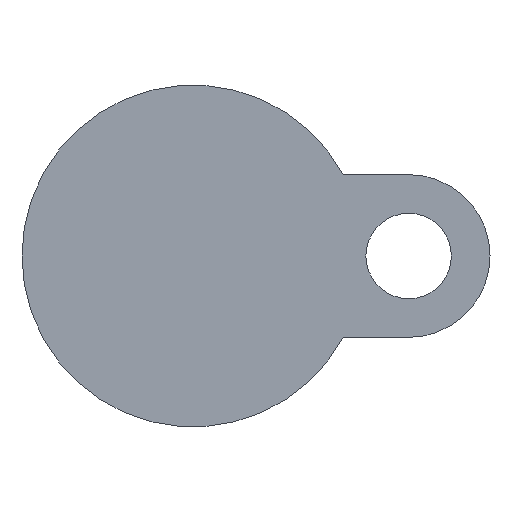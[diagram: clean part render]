
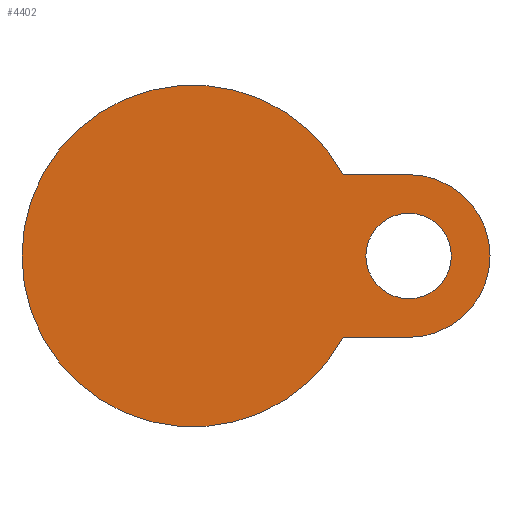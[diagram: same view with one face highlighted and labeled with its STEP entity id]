
A CAD part, front view. The second image highlights one B-rep face of the part: STEP entity #4402.
In plain terms, the highlighted planar face has unit normal (0, -1, 0).
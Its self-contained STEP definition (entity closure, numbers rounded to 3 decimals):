
#5 = ORIENTED_EDGE ( 'NONE', *, *, #544, .F. ) ;
#22 = ORIENTED_EDGE ( 'NONE', *, *, #2249, .F. ) ;
#49 = DIRECTION ( 'NONE',  ( 0., 1., 0. ) ) ;
#155 = VERTEX_POINT ( 'NONE', #1670 ) ;
#175 = FACE_OUTER_BOUND ( 'NONE', #3754, .T. ) ;
#186 = CARTESIAN_POINT ( 'NONE',  ( 26.5, -12., 0. ) ) ;
#191 = DIRECTION ( 'NONE',  ( 0., 1., 0. ) ) ;
#217 = AXIS2_PLACEMENT_3D ( 'NONE', #186, #2708, #3999 ) ;
#228 = DIRECTION ( 'NONE',  ( 0., -1., 0. ) ) ;
#278 = CARTESIAN_POINT ( 'NONE',  ( 0., -12., 0. ) ) ;
#371 = CARTESIAN_POINT ( 'NONE',  ( 18.466, -12., 10. ) ) ;
#430 = ORIENTED_EDGE ( 'NONE', *, *, #4196, .F. ) ;
#473 = CARTESIAN_POINT ( 'NONE',  ( 26.5, -12., 0. ) ) ;
#544 = EDGE_CURVE ( 'NONE', #4312, #1309, #2195, .T. ) ;
#854 = VECTOR ( 'NONE', #2696, 1000. ) ;
#861 = CARTESIAN_POINT ( 'NONE',  ( 11.159, -12., 10. ) ) ;
#928 = CIRCLE ( 'NONE', #2931, 5.25 ) ;
#1288 = CARTESIAN_POINT ( 'NONE',  ( 0., -12., 0. ) ) ;
#1309 = VERTEX_POINT ( 'NONE', #3259 ) ;
#1362 = CIRCLE ( 'NONE', #4692, 10. ) ;
#1459 = VERTEX_POINT ( 'NONE', #1911 ) ;
#1528 = CIRCLE ( 'NONE', #2753, 21. ) ;
#1670 = CARTESIAN_POINT ( 'NONE',  ( 21.25, -12., 0. ) ) ;
#1889 = DIRECTION ( 'NONE',  ( -1., 0., 0. ) ) ;
#1911 = CARTESIAN_POINT ( 'NONE',  ( -21., -12., 0. ) ) ;
#1951 = CIRCLE ( 'NONE', #4050, 21. ) ;
#1980 = DIRECTION ( 'NONE',  ( 1., 0., 0. ) ) ;
#2029 = LINE ( 'NONE', #861, #3816 ) ;
#2067 = EDGE_LOOP ( 'NONE', ( #2880, #4783 ) ) ;
#2195 = LINE ( 'NONE', #4820, #854 ) ;
#2237 = AXIS2_PLACEMENT_3D ( 'NONE', #278, #228, #5212 ) ;
#2239 = CARTESIAN_POINT ( 'NONE',  ( 26.5, -12., 10. ) ) ;
#2249 = EDGE_CURVE ( 'NONE', #1459, #3225, #1951, .T. ) ;
#2310 = CARTESIAN_POINT ( 'NONE',  ( 31.75, -12., 0. ) ) ;
#2322 = CARTESIAN_POINT ( 'NONE',  ( 26.5, -12., 0. ) ) ;
#2576 = VERTEX_POINT ( 'NONE', #2310 ) ;
#2586 = CIRCLE ( 'NONE', #217, 5.25 ) ;
#2696 = DIRECTION ( 'NONE',  ( -1., 0., 0. ) ) ;
#2708 = DIRECTION ( 'NONE',  ( 0., 1., 0. ) ) ;
#2745 = EDGE_CURVE ( 'NONE', #2981, #4312, #1362, .T. ) ;
#2753 = AXIS2_PLACEMENT_3D ( 'NONE', #3533, #3221, #1889 ) ;
#2757 = DIRECTION ( 'NONE',  ( 1., 0., 0. ) ) ;
#2880 = ORIENTED_EDGE ( 'NONE', *, *, #3054, .T. ) ;
#2931 = AXIS2_PLACEMENT_3D ( 'NONE', #2322, #4807, #2757 ) ;
#2981 = VERTEX_POINT ( 'NONE', #2239 ) ;
#2988 = EDGE_CURVE ( 'NONE', #1309, #1459, #1528, .T. ) ;
#3054 = EDGE_CURVE ( 'NONE', #155, #2576, #2586, .T. ) ;
#3102 = DIRECTION ( 'NONE',  ( 1., 0., 0. ) ) ;
#3136 = EDGE_CURVE ( 'NONE', #2576, #155, #928, .T. ) ;
#3221 = DIRECTION ( 'NONE',  ( 0., 1., 0. ) ) ;
#3225 = VERTEX_POINT ( 'NONE', #371 ) ;
#3259 = CARTESIAN_POINT ( 'NONE',  ( 18.466, -12., -10. ) ) ;
#3533 = CARTESIAN_POINT ( 'NONE',  ( 0., -12., 0. ) ) ;
#3594 = PLANE ( 'NONE',  #2237 ) ;
#3754 = EDGE_LOOP ( 'NONE', ( #430, #22, #3924, #5, #4185 ) ) ;
#3816 = VECTOR ( 'NONE', #1980, 1000. ) ;
#3924 = ORIENTED_EDGE ( 'NONE', *, *, #2988, .F. ) ;
#3999 = DIRECTION ( 'NONE',  ( 1., 0., 0. ) ) ;
#4011 = FACE_BOUND ( 'NONE', #2067, .T. ) ;
#4050 = AXIS2_PLACEMENT_3D ( 'NONE', #1288, #49, #4551 ) ;
#4185 = ORIENTED_EDGE ( 'NONE', *, *, #2745, .F. ) ;
#4196 = EDGE_CURVE ( 'NONE', #3225, #2981, #2029, .T. ) ;
#4232 = CARTESIAN_POINT ( 'NONE',  ( 26.5, -12., -10. ) ) ;
#4312 = VERTEX_POINT ( 'NONE', #4232 ) ;
#4402 = ADVANCED_FACE ( 'NONE', ( #175, #4011 ), #3594, .T. ) ;
#4551 = DIRECTION ( 'NONE',  ( -1., 0., 0. ) ) ;
#4692 = AXIS2_PLACEMENT_3D ( 'NONE', #473, #191, #3102 ) ;
#4783 = ORIENTED_EDGE ( 'NONE', *, *, #3136, .T. ) ;
#4807 = DIRECTION ( 'NONE',  ( 0., 1., 0. ) ) ;
#4820 = CARTESIAN_POINT ( 'NONE',  ( 26.5, -12., -10. ) ) ;
#5212 = DIRECTION ( 'NONE',  ( 1., 0., 0. ) ) ;
